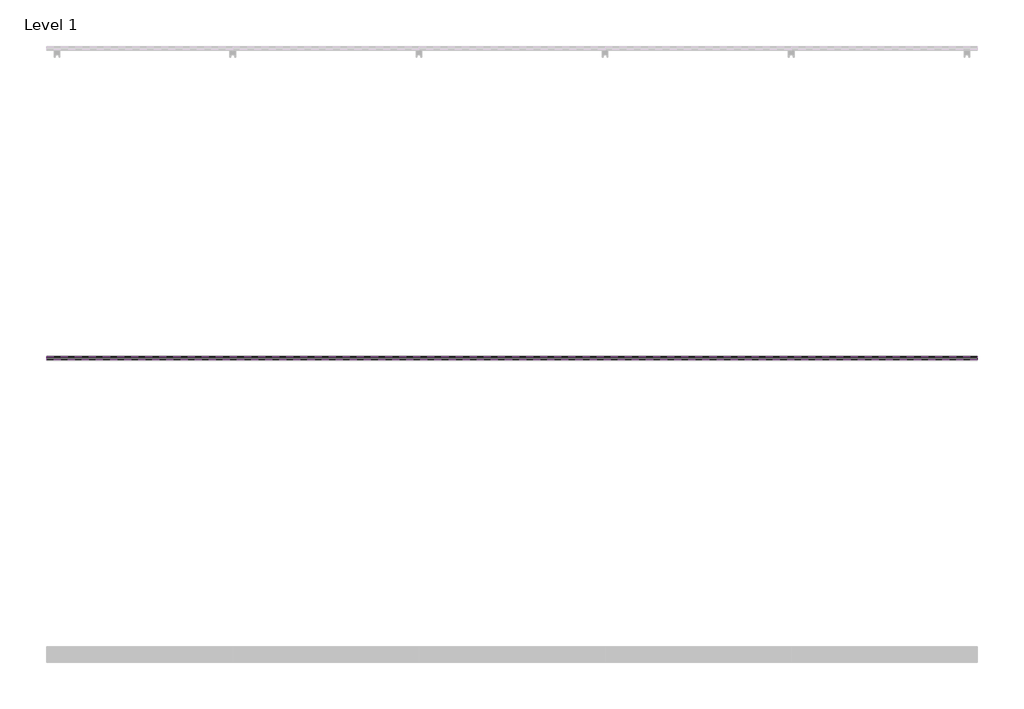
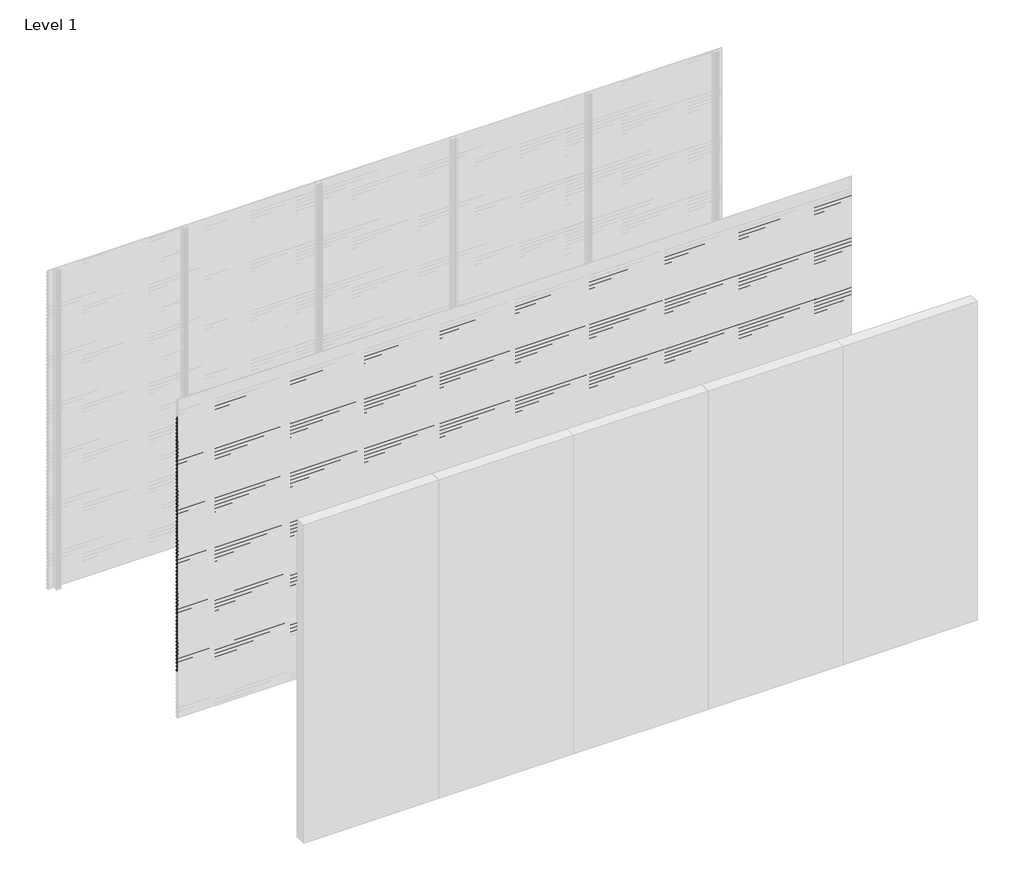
# One storey, part 56 of 77: 72 proxies.
"""IFC4 building model written with IfcOpenShell, lengths in millimetres."""

from ifc_helpers import new_model, si_unit, frame, origin, place, context, project, spatial, polyline, outline, extrude, element, save

model = new_model("IFC4")

# Units and contexts
model_context = context("Model", 3, world=origin())
ifc_project = project(units=[si_unit("LENGTHUNIT", "METRE", prefix="MILLI")], contexts=[model_context])

# Site, building, storey
site = spatial("IfcSite", under=ifc_project)
building = spatial("IfcBuilding", under=site)
storey = spatial("IfcBuildingStorey", under=building, Name="Level 1", Elevation=0.0)

# Proxies
placement = place(None, origin())
element("IfcBuildingElementProxy", 1, Name="Wall Sweeps", at=placement, inside=storey, context=model_context, shape_type="SweptSolid", body=[
    extrude(outline(polyline([(-13978.6, 2806.0359887), (-13998.0, 2817.2366691), (-13998.0, 2830.5), (-13997.0, 2830.5), (-13997.0, 2817.8191057), (-13977.6, 2806.6185105), (-13977.6, 2793.0185105), (-13978.6, 2794.5953129), (-13978.6, 2800.4032062), (-13995.9773817, 2792.3), (-13996.4, 2793.2063078), (-13978.6, 2801.5065841), (-13978.6, 2806.0359887)])), frame((0.0, 0.0, 0.0), z_axis=(1.0, 0.0, 0.0), x_axis=(0.0, 1.0, 0.0)), (0.0, 0.0, 1.0), 6000.0),
])
element("IfcBuildingElementProxy", 2, Name="Wall Sweeps", at=placement, inside=storey, context=model_context, shape_type="SweptSolid", body=[
    extrude(outline(polyline([(-13978.6, 2772.7359887), (-13998.0, 2783.9366691), (-13998.0, 2797.2), (-13997.0, 2797.2), (-13997.0, 2784.5191057), (-13977.6, 2773.3185105), (-13977.6, 2759.7185105), (-13978.6, 2761.2953129), (-13978.6, 2767.1032062), (-13995.9773817, 2759.0), (-13996.4, 2759.9063078), (-13978.6, 2768.2065841), (-13978.6, 2772.7359887)])), frame((0.0, 0.0, 0.0), z_axis=(1.0, 0.0, 0.0), x_axis=(0.0, 1.0, 0.0)), (0.0, 0.0, 1.0), 6000.0),
])
element("IfcBuildingElementProxy", 3, Name="Wall Sweeps", at=placement, inside=storey, context=model_context, shape_type="SweptSolid", body=[
    extrude(outline(polyline([(-13978.6, 2739.4359887), (-13998.0, 2750.6366691), (-13998.0, 2763.9), (-13997.0, 2763.9), (-13997.0, 2751.2191057), (-13977.6, 2740.0185105), (-13977.6, 2726.4185105), (-13978.6, 2727.9953129), (-13978.6, 2733.8032062), (-13995.9773817, 2725.7), (-13996.4, 2726.6063078), (-13978.6, 2734.9065841), (-13978.6, 2739.4359887)])), frame((0.0, 0.0, 0.0), z_axis=(1.0, 0.0, 0.0), x_axis=(0.0, 1.0, 0.0)), (0.0, 0.0, 1.0), 6000.0),
])
element("IfcBuildingElementProxy", 4, Name="Wall Sweeps", at=placement, inside=storey, context=model_context, shape_type="SweptSolid", body=[
    extrude(outline(polyline([(-13978.6, 2706.1359887), (-13998.0, 2717.3366691), (-13998.0, 2730.6), (-13997.0, 2730.6), (-13997.0, 2717.9191057), (-13977.6, 2706.7185105), (-13977.6, 2693.1185105), (-13978.6, 2694.6953129), (-13978.6, 2700.5032062), (-13995.9773817, 2692.4), (-13996.4, 2693.3063078), (-13978.6, 2701.6065841), (-13978.6, 2706.1359887)])), frame((0.0, 0.0, 0.0), z_axis=(1.0, 0.0, 0.0), x_axis=(0.0, 1.0, 0.0)), (0.0, 0.0, 1.0), 6000.0),
])
element("IfcBuildingElementProxy", 5, Name="Wall Sweeps", at=placement, inside=storey, context=model_context, shape_type="SweptSolid", body=[
    extrude(outline(polyline([(-13978.6, 2672.8359887), (-13998.0, 2684.0366691), (-13998.0, 2697.3), (-13997.0, 2697.3), (-13997.0, 2684.6191057), (-13977.6, 2673.4185105), (-13977.6, 2659.8185105), (-13978.6, 2661.3953129), (-13978.6, 2667.2032062), (-13995.9773817, 2659.1), (-13996.4, 2660.0063078), (-13978.6, 2668.3065841), (-13978.6, 2672.8359887)])), frame((0.0, 0.0, 0.0), z_axis=(1.0, 0.0, 0.0), x_axis=(0.0, 1.0, 0.0)), (0.0, 0.0, 1.0), 6000.0),
])
element("IfcBuildingElementProxy", 6, Name="Wall Sweeps", at=placement, inside=storey, context=model_context, shape_type="SweptSolid", body=[
    extrude(outline(polyline([(-13978.6, 2639.5359887), (-13998.0, 2650.7366691), (-13998.0, 2664.0), (-13997.0, 2664.0), (-13997.0, 2651.3191057), (-13977.6, 2640.1185105), (-13977.6, 2626.5185105), (-13978.6, 2628.0953129), (-13978.6, 2633.9032062), (-13995.9773817, 2625.8), (-13996.4, 2626.7063078), (-13978.6, 2635.0065841), (-13978.6, 2639.5359887)])), frame((0.0, 0.0, 0.0), z_axis=(1.0, 0.0, 0.0), x_axis=(0.0, 1.0, 0.0)), (0.0, 0.0, 1.0), 6000.0),
])
element("IfcBuildingElementProxy", 7, Name="Wall Sweeps", at=placement, inside=storey, context=model_context, shape_type="SweptSolid", body=[
    extrude(outline(polyline([(-13978.6, 2606.2359887), (-13998.0, 2617.4366691), (-13998.0, 2630.7), (-13997.0, 2630.7), (-13997.0, 2618.0191057), (-13977.6, 2606.8185105), (-13977.6, 2593.2185105), (-13978.6, 2594.7953129), (-13978.6, 2600.6032062), (-13995.9773817, 2592.5), (-13996.4, 2593.4063078), (-13978.6, 2601.7065841), (-13978.6, 2606.2359887)])), frame((0.0, 0.0, 0.0), z_axis=(1.0, 0.0, 0.0), x_axis=(0.0, 1.0, 0.0)), (0.0, 0.0, 1.0), 6000.0),
])
element("IfcBuildingElementProxy", 8, Name="Wall Sweeps", at=placement, inside=storey, context=model_context, shape_type="SweptSolid", body=[
    extrude(outline(polyline([(-13978.6, 2572.9359887), (-13998.0, 2584.1366691), (-13998.0, 2597.4), (-13997.0, 2597.4), (-13997.0, 2584.7191057), (-13977.6, 2573.5185105), (-13977.6, 2559.9185105), (-13978.6, 2561.4953129), (-13978.6, 2567.3032062), (-13995.9773817, 2559.2), (-13996.4, 2560.1063078), (-13978.6, 2568.4065841), (-13978.6, 2572.9359887)])), frame((0.0, 0.0, 0.0), z_axis=(1.0, 0.0, 0.0), x_axis=(0.0, 1.0, 0.0)), (0.0, 0.0, 1.0), 6000.0),
])
element("IfcBuildingElementProxy", 9, Name="Wall Sweeps", at=placement, inside=storey, context=model_context, shape_type="SweptSolid", body=[
    extrude(outline(polyline([(-13978.6, 2539.6359887), (-13998.0, 2550.8366691), (-13998.0, 2564.1), (-13997.0, 2564.1), (-13997.0, 2551.4191057), (-13977.6, 2540.2185105), (-13977.6, 2526.6185105), (-13978.6, 2528.1953129), (-13978.6, 2534.0032062), (-13995.9773817, 2525.9), (-13996.4, 2526.8063078), (-13978.6, 2535.1065841), (-13978.6, 2539.6359887)])), frame((0.0, 0.0, 0.0), z_axis=(1.0, 0.0, 0.0), x_axis=(0.0, 1.0, 0.0)), (0.0, 0.0, 1.0), 6000.0),
])
element("IfcBuildingElementProxy", 10, Name="Wall Sweeps", at=placement, inside=storey, context=model_context, shape_type="SweptSolid", body=[
    extrude(outline(polyline([(-13978.6, 2506.3359887), (-13998.0, 2517.5366691), (-13998.0, 2530.8), (-13997.0, 2530.8), (-13997.0, 2518.1191057), (-13977.6, 2506.9185105), (-13977.6, 2493.3185105), (-13978.6, 2494.8953129), (-13978.6, 2500.7032062), (-13995.9773817, 2492.6), (-13996.4, 2493.5063078), (-13978.6, 2501.8065841), (-13978.6, 2506.3359887)])), frame((0.0, 0.0, 0.0), z_axis=(1.0, 0.0, 0.0), x_axis=(0.0, 1.0, 0.0)), (0.0, 0.0, 1.0), 6000.0),
])
element("IfcBuildingElementProxy", 11, Name="Wall Sweeps", at=placement, inside=storey, context=model_context, shape_type="SweptSolid", body=[
    extrude(outline(polyline([(-13978.6, 2473.0359887), (-13998.0, 2484.2366691), (-13998.0, 2497.5), (-13997.0, 2497.5), (-13997.0, 2484.8191057), (-13977.6, 2473.6185105), (-13977.6, 2460.0185105), (-13978.6, 2461.5953129), (-13978.6, 2467.4032062), (-13995.9773817, 2459.3), (-13996.4, 2460.2063078), (-13978.6, 2468.5065841), (-13978.6, 2473.0359887)])), frame((0.0, 0.0, 0.0), z_axis=(1.0, 0.0, 0.0), x_axis=(0.0, 1.0, 0.0)), (0.0, 0.0, 1.0), 6000.0),
])
element("IfcBuildingElementProxy", 12, Name="Wall Sweeps", at=placement, inside=storey, context=model_context, shape_type="SweptSolid", body=[
    extrude(outline(polyline([(-13978.6, 2439.7359887), (-13998.0, 2450.9366691), (-13998.0, 2464.2), (-13997.0, 2464.2), (-13997.0, 2451.5191057), (-13977.6, 2440.3185105), (-13977.6, 2426.7185105), (-13978.6, 2428.2953129), (-13978.6, 2434.1032062), (-13995.9773817, 2426.0), (-13996.4, 2426.9063078), (-13978.6, 2435.2065841), (-13978.6, 2439.7359887)])), frame((0.0, 0.0, 0.0), z_axis=(1.0, 0.0, 0.0), x_axis=(0.0, 1.0, 0.0)), (0.0, 0.0, 1.0), 6000.0),
])
element("IfcBuildingElementProxy", 13, Name="Wall Sweeps", at=placement, inside=storey, context=model_context, shape_type="SweptSolid", body=[
    extrude(outline(polyline([(-13978.6, 2406.4359887), (-13998.0, 2417.6366691), (-13998.0, 2430.9), (-13997.0, 2430.9), (-13997.0, 2418.2191057), (-13977.6, 2407.0185105), (-13977.6, 2393.4185105), (-13978.6, 2394.9953129), (-13978.6, 2400.8032062), (-13995.9773817, 2392.7), (-13996.4, 2393.6063078), (-13978.6, 2401.9065841), (-13978.6, 2406.4359887)])), frame((0.0, 0.0, 0.0), z_axis=(1.0, 0.0, 0.0), x_axis=(0.0, 1.0, 0.0)), (0.0, 0.0, 1.0), 6000.0),
])
element("IfcBuildingElementProxy", 14, Name="Wall Sweeps", at=placement, inside=storey, context=model_context, shape_type="SweptSolid", body=[
    extrude(outline(polyline([(-13978.6, 2373.1359887), (-13998.0, 2384.3366691), (-13998.0, 2397.6), (-13997.0, 2397.6), (-13997.0, 2384.9191057), (-13977.6, 2373.7185105), (-13977.6, 2360.1185105), (-13978.6, 2361.6953129), (-13978.6, 2367.5032062), (-13995.9773817, 2359.4), (-13996.4, 2360.3063078), (-13978.6, 2368.6065841), (-13978.6, 2373.1359887)])), frame((0.0, 0.0, 0.0), z_axis=(1.0, 0.0, 0.0), x_axis=(0.0, 1.0, 0.0)), (0.0, 0.0, 1.0), 6000.0),
])
element("IfcBuildingElementProxy", 15, Name="Wall Sweeps", at=placement, inside=storey, context=model_context, shape_type="SweptSolid", body=[
    extrude(outline(polyline([(-13978.6, 2339.8359887), (-13998.0, 2351.0366691), (-13998.0, 2364.3), (-13997.0, 2364.3), (-13997.0, 2351.6191057), (-13977.6, 2340.4185105), (-13977.6, 2326.8185105), (-13978.6, 2328.3953129), (-13978.6, 2334.2032062), (-13995.9773817, 2326.1), (-13996.4, 2327.0063078), (-13978.6, 2335.3065841), (-13978.6, 2339.8359887)])), frame((0.0, 0.0, 0.0), z_axis=(1.0, 0.0, 0.0), x_axis=(0.0, 1.0, 0.0)), (0.0, 0.0, 1.0), 6000.0),
])
element("IfcBuildingElementProxy", 16, Name="Wall Sweeps", at=placement, inside=storey, context=model_context, shape_type="SweptSolid", body=[
    extrude(outline(polyline([(-13978.6, 2306.5359887), (-13998.0, 2317.7366691), (-13998.0, 2331.0), (-13997.0, 2331.0), (-13997.0, 2318.3191057), (-13977.6, 2307.1185105), (-13977.6, 2293.5185105), (-13978.6, 2295.0953129), (-13978.6, 2300.9032062), (-13995.9773817, 2292.8), (-13996.4, 2293.7063078), (-13978.6, 2302.0065841), (-13978.6, 2306.5359887)])), frame((0.0, 0.0, 0.0), z_axis=(1.0, 0.0, 0.0), x_axis=(0.0, 1.0, 0.0)), (0.0, 0.0, 1.0), 6000.0),
])
element("IfcBuildingElementProxy", 17, Name="Wall Sweeps", at=placement, inside=storey, context=model_context, shape_type="SweptSolid", body=[
    extrude(outline(polyline([(-13978.6, 2273.2359887), (-13998.0, 2284.4366691), (-13998.0, 2297.7), (-13997.0, 2297.7), (-13997.0, 2285.0191057), (-13977.6, 2273.8185105), (-13977.6, 2260.2185105), (-13978.6, 2261.7953129), (-13978.6, 2267.6032062), (-13995.9773817, 2259.5), (-13996.4, 2260.4063078), (-13978.6, 2268.7065841), (-13978.6, 2273.2359887)])), frame((0.0, 0.0, 0.0), z_axis=(1.0, 0.0, 0.0), x_axis=(0.0, 1.0, 0.0)), (0.0, 0.0, 1.0), 6000.0),
])
element("IfcBuildingElementProxy", 18, Name="Wall Sweeps", at=placement, inside=storey, context=model_context, shape_type="SweptSolid", body=[
    extrude(outline(polyline([(-13978.6, 2239.9359887), (-13998.0, 2251.1366691), (-13998.0, 2264.4), (-13997.0, 2264.4), (-13997.0, 2251.7191057), (-13977.6, 2240.5185105), (-13977.6, 2226.9185105), (-13978.6, 2228.4953129), (-13978.6, 2234.3032062), (-13995.9773817, 2226.2), (-13996.4, 2227.1063078), (-13978.6, 2235.4065841), (-13978.6, 2239.9359887)])), frame((0.0, 0.0, 0.0), z_axis=(1.0, 0.0, 0.0), x_axis=(0.0, 1.0, 0.0)), (0.0, 0.0, 1.0), 6000.0),
])
element("IfcBuildingElementProxy", 19, Name="Wall Sweeps", at=placement, inside=storey, context=model_context, shape_type="SweptSolid", body=[
    extrude(outline(polyline([(-13978.6, 2206.6359887), (-13998.0, 2217.8366691), (-13998.0, 2231.1), (-13997.0, 2231.1), (-13997.0, 2218.4191057), (-13977.6, 2207.2185105), (-13977.6, 2193.6185105), (-13978.6, 2195.1953129), (-13978.6, 2201.0032062), (-13995.9773817, 2192.9), (-13996.4, 2193.8063078), (-13978.6, 2202.1065841), (-13978.6, 2206.6359887)])), frame((0.0, 0.0, 0.0), z_axis=(1.0, 0.0, 0.0), x_axis=(0.0, 1.0, 0.0)), (0.0, 0.0, 1.0), 6000.0),
])
element("IfcBuildingElementProxy", 20, Name="Wall Sweeps", at=placement, inside=storey, context=model_context, shape_type="SweptSolid", body=[
    extrude(outline(polyline([(-13978.6, 2173.3359887), (-13998.0, 2184.5366691), (-13998.0, 2197.8), (-13997.0, 2197.8), (-13997.0, 2185.1191057), (-13977.6, 2173.9185105), (-13977.6, 2160.3185105), (-13978.6, 2161.8953129), (-13978.6, 2167.7032062), (-13995.9773817, 2159.6), (-13996.4, 2160.5063078), (-13978.6, 2168.8065841), (-13978.6, 2173.3359887)])), frame((0.0, 0.0, 0.0), z_axis=(1.0, 0.0, 0.0), x_axis=(0.0, 1.0, 0.0)), (0.0, 0.0, 1.0), 6000.0),
])
element("IfcBuildingElementProxy", 21, Name="Wall Sweeps", at=placement, inside=storey, context=model_context, shape_type="SweptSolid", body=[
    extrude(outline(polyline([(-13978.6, 2140.0359887), (-13998.0, 2151.2366691), (-13998.0, 2164.5), (-13997.0, 2164.5), (-13997.0, 2151.8191057), (-13977.6, 2140.6185105), (-13977.6, 2127.0185105), (-13978.6, 2128.5953129), (-13978.6, 2134.4032062), (-13995.9773817, 2126.3), (-13996.4, 2127.2063078), (-13978.6, 2135.5065841), (-13978.6, 2140.0359887)])), frame((0.0, 0.0, 0.0), z_axis=(1.0, 0.0, 0.0), x_axis=(0.0, 1.0, 0.0)), (0.0, 0.0, 1.0), 6000.0),
])
element("IfcBuildingElementProxy", 22, Name="Wall Sweeps", at=placement, inside=storey, context=model_context, shape_type="SweptSolid", body=[
    extrude(outline(polyline([(-13978.6, 2106.7359887), (-13998.0, 2117.9366691), (-13998.0, 2131.2), (-13997.0, 2131.2), (-13997.0, 2118.5191057), (-13977.6, 2107.3185105), (-13977.6, 2093.7185105), (-13978.6, 2095.2953129), (-13978.6, 2101.1032062), (-13995.9773817, 2093.0), (-13996.4, 2093.9063078), (-13978.6, 2102.2065841), (-13978.6, 2106.7359887)])), frame((0.0, 0.0, 0.0), z_axis=(1.0, 0.0, 0.0), x_axis=(0.0, 1.0, 0.0)), (0.0, 0.0, 1.0), 6000.0),
])
element("IfcBuildingElementProxy", 23, Name="Wall Sweeps", at=placement, inside=storey, context=model_context, shape_type="SweptSolid", body=[
    extrude(outline(polyline([(-13978.6, 2073.4359887), (-13998.0, 2084.6366691), (-13998.0, 2097.9), (-13997.0, 2097.9), (-13997.0, 2085.2191057), (-13977.6, 2074.0185105), (-13977.6, 2060.4185105), (-13978.6, 2061.9953129), (-13978.6, 2067.8032062), (-13995.9773817, 2059.7), (-13996.4, 2060.6063078), (-13978.6, 2068.9065841), (-13978.6, 2073.4359887)])), frame((0.0, 0.0, 0.0), z_axis=(1.0, 0.0, 0.0), x_axis=(0.0, 1.0, 0.0)), (0.0, 0.0, 1.0), 6000.0),
])
element("IfcBuildingElementProxy", 24, Name="Wall Sweeps", at=placement, inside=storey, context=model_context, shape_type="SweptSolid", body=[
    extrude(outline(polyline([(-13978.6, 2040.1359887), (-13998.0, 2051.3366691), (-13998.0, 2064.6), (-13997.0, 2064.6), (-13997.0, 2051.9191057), (-13977.6, 2040.7185105), (-13977.6, 2027.1185105), (-13978.6, 2028.6953129), (-13978.6, 2034.5032062), (-13995.9773817, 2026.4), (-13996.4, 2027.3063078), (-13978.6, 2035.6065841), (-13978.6, 2040.1359887)])), frame((0.0, 0.0, 0.0), z_axis=(1.0, 0.0, 0.0), x_axis=(0.0, 1.0, 0.0)), (0.0, 0.0, 1.0), 6000.0),
])
element("IfcBuildingElementProxy", 25, Name="Wall Sweeps", at=placement, inside=storey, context=model_context, shape_type="SweptSolid", body=[
    extrude(outline(polyline([(-13978.6, 2006.8359887), (-13998.0, 2018.0366691), (-13998.0, 2031.3), (-13997.0, 2031.3), (-13997.0, 2018.6191057), (-13977.6, 2007.4185105), (-13977.6, 1993.8185105), (-13978.6, 1995.3953129), (-13978.6, 2001.2032062), (-13995.9773817, 1993.1), (-13996.4, 1994.0063078), (-13978.6, 2002.3065841), (-13978.6, 2006.8359887)])), frame((0.0, 0.0, 0.0), z_axis=(1.0, 0.0, 0.0), x_axis=(0.0, 1.0, 0.0)), (0.0, 0.0, 1.0), 6000.0),
])
element("IfcBuildingElementProxy", 26, Name="Wall Sweeps", at=placement, inside=storey, context=model_context, shape_type="SweptSolid", body=[
    extrude(outline(polyline([(-13978.6, 1973.5359887), (-13998.0, 1984.7366691), (-13998.0, 1998.0), (-13997.0, 1998.0), (-13997.0, 1985.3191057), (-13977.6, 1974.1185105), (-13977.6, 1960.5185105), (-13978.6, 1962.0953129), (-13978.6, 1967.9032062), (-13995.9773817, 1959.8), (-13996.4, 1960.7063078), (-13978.6, 1969.0065841), (-13978.6, 1973.5359887)])), frame((0.0, 0.0, 0.0), z_axis=(1.0, 0.0, 0.0), x_axis=(0.0, 1.0, 0.0)), (0.0, 0.0, 1.0), 6000.0),
])
element("IfcBuildingElementProxy", 27, Name="Wall Sweeps", at=placement, inside=storey, context=model_context, shape_type="SweptSolid", body=[
    extrude(outline(polyline([(-13978.6, 1940.2359887), (-13998.0, 1951.4366691), (-13998.0, 1964.7), (-13997.0, 1964.7), (-13997.0, 1952.0191057), (-13977.6, 1940.8185105), (-13977.6, 1927.2185105), (-13978.6, 1928.7953129), (-13978.6, 1934.6032062), (-13995.9773817, 1926.5), (-13996.4, 1927.4063078), (-13978.6, 1935.7065841), (-13978.6, 1940.2359887)])), frame((0.0, 0.0, 0.0), z_axis=(1.0, 0.0, 0.0), x_axis=(0.0, 1.0, 0.0)), (0.0, 0.0, 1.0), 6000.0),
])
element("IfcBuildingElementProxy", 28, Name="Wall Sweeps", at=placement, inside=storey, context=model_context, shape_type="SweptSolid", body=[
    extrude(outline(polyline([(-13978.6, 1906.9359887), (-13998.0, 1918.1366691), (-13998.0, 1931.4), (-13997.0, 1931.4), (-13997.0, 1918.7191057), (-13977.6, 1907.5185105), (-13977.6, 1893.9185105), (-13978.6, 1895.4953129), (-13978.6, 1901.3032062), (-13995.9773817, 1893.2), (-13996.4, 1894.1063078), (-13978.6, 1902.4065841), (-13978.6, 1906.9359887)])), frame((0.0, 0.0, 0.0), z_axis=(1.0, 0.0, 0.0), x_axis=(0.0, 1.0, 0.0)), (0.0, 0.0, 1.0), 6000.0),
])
element("IfcBuildingElementProxy", 29, Name="Wall Sweeps", at=placement, inside=storey, context=model_context, shape_type="SweptSolid", body=[
    extrude(outline(polyline([(-13978.6, 1873.6359887), (-13998.0, 1884.8366691), (-13998.0, 1898.1), (-13997.0, 1898.1), (-13997.0, 1885.4191057), (-13977.6, 1874.2185105), (-13977.6, 1860.6185105), (-13978.6, 1862.1953129), (-13978.6, 1868.0032062), (-13995.9773817, 1859.9), (-13996.4, 1860.8063078), (-13978.6, 1869.1065841), (-13978.6, 1873.6359887)])), frame((0.0, 0.0, 0.0), z_axis=(1.0, 0.0, 0.0), x_axis=(0.0, 1.0, 0.0)), (0.0, 0.0, 1.0), 6000.0),
])
element("IfcBuildingElementProxy", 30, Name="Wall Sweeps", at=placement, inside=storey, context=model_context, shape_type="SweptSolid", body=[
    extrude(outline(polyline([(-13978.6, 1840.3359887), (-13998.0, 1851.5366691), (-13998.0, 1864.8), (-13997.0, 1864.8), (-13997.0, 1852.1191057), (-13977.6, 1840.9185105), (-13977.6, 1827.3185105), (-13978.6, 1828.8953129), (-13978.6, 1834.7032062), (-13995.9773817, 1826.6), (-13996.4, 1827.5063078), (-13978.6, 1835.8065841), (-13978.6, 1840.3359887)])), frame((0.0, 0.0, 0.0), z_axis=(1.0, 0.0, 0.0), x_axis=(0.0, 1.0, 0.0)), (0.0, 0.0, 1.0), 6000.0),
])
element("IfcBuildingElementProxy", 31, Name="Wall Sweeps", at=placement, inside=storey, context=model_context, shape_type="SweptSolid", body=[
    extrude(outline(polyline([(-13978.6, 1807.0359887), (-13998.0, 1818.2366691), (-13998.0, 1831.5), (-13997.0, 1831.5), (-13997.0, 1818.8191057), (-13977.6, 1807.6185105), (-13977.6, 1794.0185105), (-13978.6, 1795.5953129), (-13978.6, 1801.4032062), (-13995.9773817, 1793.3), (-13996.4, 1794.2063078), (-13978.6, 1802.5065841), (-13978.6, 1807.0359887)])), frame((0.0, 0.0, 0.0), z_axis=(1.0, 0.0, 0.0), x_axis=(0.0, 1.0, 0.0)), (0.0, 0.0, 1.0), 6000.0),
])
element("IfcBuildingElementProxy", 32, Name="Wall Sweeps", at=placement, inside=storey, context=model_context, shape_type="SweptSolid", body=[
    extrude(outline(polyline([(-13978.6, 1773.7359887), (-13998.0, 1784.9366691), (-13998.0, 1798.2), (-13997.0, 1798.2), (-13997.0, 1785.5191057), (-13977.6, 1774.3185105), (-13977.6, 1760.7185105), (-13978.6, 1762.2953129), (-13978.6, 1768.1032062), (-13995.9773817, 1760.0), (-13996.4, 1760.9063078), (-13978.6, 1769.2065841), (-13978.6, 1773.7359887)])), frame((0.0, 0.0, 0.0), z_axis=(1.0, 0.0, 0.0), x_axis=(0.0, 1.0, 0.0)), (0.0, 0.0, 1.0), 6000.0),
])
element("IfcBuildingElementProxy", 33, Name="Wall Sweeps", at=placement, inside=storey, context=model_context, shape_type="SweptSolid", body=[
    extrude(outline(polyline([(-13978.6, 1740.4359887), (-13998.0, 1751.6366691), (-13998.0, 1764.9), (-13997.0, 1764.9), (-13997.0, 1752.2191057), (-13977.6, 1741.0185105), (-13977.6, 1727.4185105), (-13978.6, 1728.9953129), (-13978.6, 1734.8032062), (-13995.9773817, 1726.7), (-13996.4, 1727.6063078), (-13978.6, 1735.9065841), (-13978.6, 1740.4359887)])), frame((0.0, 0.0, 0.0), z_axis=(1.0, 0.0, 0.0), x_axis=(0.0, 1.0, 0.0)), (0.0, 0.0, 1.0), 6000.0),
])
element("IfcBuildingElementProxy", 34, Name="Wall Sweeps", at=placement, inside=storey, context=model_context, shape_type="SweptSolid", body=[
    extrude(outline(polyline([(-13978.6, 1707.1359887), (-13998.0, 1718.3366691), (-13998.0, 1731.6), (-13997.0, 1731.6), (-13997.0, 1718.9191057), (-13977.6, 1707.7185105), (-13977.6, 1694.1185105), (-13978.6, 1695.6953129), (-13978.6, 1701.5032062), (-13995.9773817, 1693.4), (-13996.4, 1694.3063078), (-13978.6, 1702.6065841), (-13978.6, 1707.1359887)])), frame((0.0, 0.0, 0.0), z_axis=(1.0, 0.0, 0.0), x_axis=(0.0, 1.0, 0.0)), (0.0, 0.0, 1.0), 6000.0),
])
element("IfcBuildingElementProxy", 35, Name="Wall Sweeps", at=placement, inside=storey, context=model_context, shape_type="SweptSolid", body=[
    extrude(outline(polyline([(-13978.6, 1673.8359887), (-13998.0, 1685.0366691), (-13998.0, 1698.3), (-13997.0, 1698.3), (-13997.0, 1685.6191057), (-13977.6, 1674.4185105), (-13977.6, 1660.8185105), (-13978.6, 1662.3953129), (-13978.6, 1668.2032062), (-13995.9773817, 1660.1), (-13996.4, 1661.0063078), (-13978.6, 1669.3065841), (-13978.6, 1673.8359887)])), frame((0.0, 0.0, 0.0), z_axis=(1.0, 0.0, 0.0), x_axis=(0.0, 1.0, 0.0)), (0.0, 0.0, 1.0), 6000.0),
])
element("IfcBuildingElementProxy", 36, Name="Wall Sweeps", at=placement, inside=storey, context=model_context, shape_type="SweptSolid", body=[
    extrude(outline(polyline([(-13978.6, 1640.5359887), (-13998.0, 1651.7366691), (-13998.0, 1665.0), (-13997.0, 1665.0), (-13997.0, 1652.3191057), (-13977.6, 1641.1185105), (-13977.6, 1627.5185105), (-13978.6, 1629.0953129), (-13978.6, 1634.9032062), (-13995.9773817, 1626.8), (-13996.4, 1627.7063078), (-13978.6, 1636.0065841), (-13978.6, 1640.5359887)])), frame((0.0, 0.0, 0.0), z_axis=(1.0, 0.0, 0.0), x_axis=(0.0, 1.0, 0.0)), (0.0, 0.0, 1.0), 6000.0),
])
element("IfcBuildingElementProxy", 37, Name="Wall Sweeps", at=placement, inside=storey, context=model_context, shape_type="SweptSolid", body=[
    extrude(outline(polyline([(-13978.6, 1607.2359887), (-13998.0, 1618.4366691), (-13998.0, 1631.7), (-13997.0, 1631.7), (-13997.0, 1619.0191057), (-13977.6, 1607.8185105), (-13977.6, 1594.2185105), (-13978.6, 1595.7953129), (-13978.6, 1601.6032062), (-13995.9773817, 1593.5), (-13996.4, 1594.4063078), (-13978.6, 1602.7065841), (-13978.6, 1607.2359887)])), frame((0.0, 0.0, 0.0), z_axis=(1.0, 0.0, 0.0), x_axis=(0.0, 1.0, 0.0)), (0.0, 0.0, 1.0), 6000.0),
])
element("IfcBuildingElementProxy", 38, Name="Wall Sweeps", at=placement, inside=storey, context=model_context, shape_type="SweptSolid", body=[
    extrude(outline(polyline([(-13978.6, 1573.9359887), (-13998.0, 1585.1366691), (-13998.0, 1598.4), (-13997.0, 1598.4), (-13997.0, 1585.7191057), (-13977.6, 1574.5185105), (-13977.6, 1560.9185105), (-13978.6, 1562.4953129), (-13978.6, 1568.3032062), (-13995.9773817, 1560.2), (-13996.4, 1561.1063078), (-13978.6, 1569.4065841), (-13978.6, 1573.9359887)])), frame((0.0, 0.0, 0.0), z_axis=(1.0, 0.0, 0.0), x_axis=(0.0, 1.0, 0.0)), (0.0, 0.0, 1.0), 6000.0),
])
element("IfcBuildingElementProxy", 39, Name="Wall Sweeps", at=placement, inside=storey, context=model_context, shape_type="SweptSolid", body=[
    extrude(outline(polyline([(-13978.6, 1540.6359887), (-13998.0, 1551.8366691), (-13998.0, 1565.1), (-13997.0, 1565.1), (-13997.0, 1552.4191057), (-13977.6, 1541.2185105), (-13977.6, 1527.6185105), (-13978.6, 1529.1953129), (-13978.6, 1535.0032062), (-13995.9773817, 1526.9), (-13996.4, 1527.8063078), (-13978.6, 1536.1065841), (-13978.6, 1540.6359887)])), frame((0.0, 0.0, 0.0), z_axis=(1.0, 0.0, 0.0), x_axis=(0.0, 1.0, 0.0)), (0.0, 0.0, 1.0), 6000.0),
])
element("IfcBuildingElementProxy", 40, Name="Wall Sweeps", at=placement, inside=storey, context=model_context, shape_type="SweptSolid", body=[
    extrude(outline(polyline([(-13978.6, 1507.3359887), (-13998.0, 1518.5366691), (-13998.0, 1531.8), (-13997.0, 1531.8), (-13997.0, 1519.1191057), (-13977.6, 1507.9185105), (-13977.6, 1494.3185105), (-13978.6, 1495.8953129), (-13978.6, 1501.7032062), (-13995.9773817, 1493.6), (-13996.4, 1494.5063078), (-13978.6, 1502.8065841), (-13978.6, 1507.3359887)])), frame((0.0, 0.0, 0.0), z_axis=(1.0, 0.0, 0.0), x_axis=(0.0, 1.0, 0.0)), (0.0, 0.0, 1.0), 6000.0),
])
element("IfcBuildingElementProxy", 41, Name="Wall Sweeps", at=placement, inside=storey, context=model_context, shape_type="SweptSolid", body=[
    extrude(outline(polyline([(-13978.6, 1474.0359887), (-13998.0, 1485.2366691), (-13998.0, 1498.5), (-13997.0, 1498.5), (-13997.0, 1485.8191057), (-13977.6, 1474.6185105), (-13977.6, 1461.0185105), (-13978.6, 1462.5953129), (-13978.6, 1468.4032062), (-13995.9773817, 1460.3), (-13996.4, 1461.2063078), (-13978.6, 1469.5065841), (-13978.6, 1474.0359887)])), frame((0.0, 0.0, 0.0), z_axis=(1.0, 0.0, 0.0), x_axis=(0.0, 1.0, 0.0)), (0.0, 0.0, 1.0), 6000.0),
])
element("IfcBuildingElementProxy", 42, Name="Wall Sweeps", at=placement, inside=storey, context=model_context, shape_type="SweptSolid", body=[
    extrude(outline(polyline([(-13978.6, 1440.7359887), (-13998.0, 1451.9366691), (-13998.0, 1465.2), (-13997.0, 1465.2), (-13997.0, 1452.5191057), (-13977.6, 1441.3185105), (-13977.6, 1427.7185105), (-13978.6, 1429.2953129), (-13978.6, 1435.1032062), (-13995.9773817, 1427.0), (-13996.4, 1427.9063078), (-13978.6, 1436.2065841), (-13978.6, 1440.7359887)])), frame((0.0, 0.0, 0.0), z_axis=(1.0, 0.0, 0.0), x_axis=(0.0, 1.0, 0.0)), (0.0, 0.0, 1.0), 6000.0),
])
element("IfcBuildingElementProxy", 43, Name="Wall Sweeps", at=placement, inside=storey, context=model_context, shape_type="SweptSolid", body=[
    extrude(outline(polyline([(-13978.6, 1407.4359887), (-13998.0, 1418.6366691), (-13998.0, 1431.9), (-13997.0, 1431.9), (-13997.0, 1419.2191057), (-13977.6, 1408.0185105), (-13977.6, 1394.4185105), (-13978.6, 1395.9953129), (-13978.6, 1401.8032062), (-13995.9773817, 1393.7), (-13996.4, 1394.6063078), (-13978.6, 1402.9065841), (-13978.6, 1407.4359887)])), frame((0.0, 0.0, 0.0), z_axis=(1.0, 0.0, 0.0), x_axis=(0.0, 1.0, 0.0)), (0.0, 0.0, 1.0), 6000.0),
])
element("IfcBuildingElementProxy", 44, Name="Wall Sweeps", at=placement, inside=storey, context=model_context, shape_type="SweptSolid", body=[
    extrude(outline(polyline([(-13978.6, 1374.1359887), (-13998.0, 1385.3366691), (-13998.0, 1398.6), (-13997.0, 1398.6), (-13997.0, 1385.9191057), (-13977.6, 1374.7185105), (-13977.6, 1361.1185105), (-13978.6, 1362.6953129), (-13978.6, 1368.5032062), (-13995.9773817, 1360.4), (-13996.4, 1361.3063078), (-13978.6, 1369.6065841), (-13978.6, 1374.1359887)])), frame((0.0, 0.0, 0.0), z_axis=(1.0, 0.0, 0.0), x_axis=(0.0, 1.0, 0.0)), (0.0, 0.0, 1.0), 6000.0),
])
element("IfcBuildingElementProxy", 45, Name="Wall Sweeps", at=placement, inside=storey, context=model_context, shape_type="SweptSolid", body=[
    extrude(outline(polyline([(-13978.6, 1340.8359887), (-13998.0, 1352.0366691), (-13998.0, 1365.3), (-13997.0, 1365.3), (-13997.0, 1352.6191057), (-13977.6, 1341.4185105), (-13977.6, 1327.8185105), (-13978.6, 1329.3953129), (-13978.6, 1335.2032062), (-13995.9773817, 1327.1), (-13996.4, 1328.0063078), (-13978.6, 1336.3065841), (-13978.6, 1340.8359887)])), frame((0.0, 0.0, 0.0), z_axis=(1.0, 0.0, 0.0), x_axis=(0.0, 1.0, 0.0)), (0.0, 0.0, 1.0), 6000.0),
])
element("IfcBuildingElementProxy", 46, Name="Wall Sweeps", at=placement, inside=storey, context=model_context, shape_type="SweptSolid", body=[
    extrude(outline(polyline([(-13978.6, 1307.5359887), (-13998.0, 1318.7366691), (-13998.0, 1332.0), (-13997.0, 1332.0), (-13997.0, 1319.3191057), (-13977.6, 1308.1185105), (-13977.6, 1294.5185105), (-13978.6, 1296.0953129), (-13978.6, 1301.9032062), (-13995.9773817, 1293.8), (-13996.4, 1294.7063078), (-13978.6, 1303.0065841), (-13978.6, 1307.5359887)])), frame((0.0, 0.0, 0.0), z_axis=(1.0, 0.0, 0.0), x_axis=(0.0, 1.0, 0.0)), (0.0, 0.0, 1.0), 6000.0),
])
element("IfcBuildingElementProxy", 47, Name="Wall Sweeps", at=placement, inside=storey, context=model_context, shape_type="SweptSolid", body=[
    extrude(outline(polyline([(-13978.6, 1274.2359887), (-13998.0, 1285.4366691), (-13998.0, 1298.7), (-13997.0, 1298.7), (-13997.0, 1286.0191057), (-13977.6, 1274.8185105), (-13977.6, 1261.2185105), (-13978.6, 1262.7953129), (-13978.6, 1268.6032062), (-13995.9773817, 1260.5), (-13996.4, 1261.4063078), (-13978.6, 1269.7065841), (-13978.6, 1274.2359887)])), frame((0.0, 0.0, 0.0), z_axis=(1.0, 0.0, 0.0), x_axis=(0.0, 1.0, 0.0)), (0.0, 0.0, 1.0), 6000.0),
])
element("IfcBuildingElementProxy", 48, Name="Wall Sweeps", at=placement, inside=storey, context=model_context, shape_type="SweptSolid", body=[
    extrude(outline(polyline([(-13978.6, 1240.9359887), (-13998.0, 1252.1366691), (-13998.0, 1265.4), (-13997.0, 1265.4), (-13997.0, 1252.7191057), (-13977.6, 1241.5185105), (-13977.6, 1227.9185105), (-13978.6, 1229.4953129), (-13978.6, 1235.3032062), (-13995.9773817, 1227.2), (-13996.4, 1228.1063078), (-13978.6, 1236.4065841), (-13978.6, 1240.9359887)])), frame((0.0, 0.0, 0.0), z_axis=(1.0, 0.0, 0.0), x_axis=(0.0, 1.0, 0.0)), (0.0, 0.0, 1.0), 6000.0),
])
element("IfcBuildingElementProxy", 49, Name="Wall Sweeps", at=placement, inside=storey, context=model_context, shape_type="SweptSolid", body=[
    extrude(outline(polyline([(-13978.6, 1207.6359887), (-13998.0, 1218.8366691), (-13998.0, 1232.1), (-13997.0, 1232.1), (-13997.0, 1219.4191057), (-13977.6, 1208.2185105), (-13977.6, 1194.6185105), (-13978.6, 1196.1953129), (-13978.6, 1202.0032062), (-13995.9773817, 1193.9), (-13996.4, 1194.8063078), (-13978.6, 1203.1065841), (-13978.6, 1207.6359887)])), frame((0.0, 0.0, 0.0), z_axis=(1.0, 0.0, 0.0), x_axis=(0.0, 1.0, 0.0)), (0.0, 0.0, 1.0), 6000.0),
])
element("IfcBuildingElementProxy", 50, Name="Wall Sweeps", at=placement, inside=storey, context=model_context, shape_type="SweptSolid", body=[
    extrude(outline(polyline([(-13978.6, 1174.3359887), (-13998.0, 1185.5366691), (-13998.0, 1198.8), (-13997.0, 1198.8), (-13997.0, 1186.1191057), (-13977.6, 1174.9185105), (-13977.6, 1161.3185105), (-13978.6, 1162.8953129), (-13978.6, 1168.7032062), (-13995.9773817, 1160.6), (-13996.4, 1161.5063078), (-13978.6, 1169.8065841), (-13978.6, 1174.3359887)])), frame((0.0, 0.0, 0.0), z_axis=(1.0, 0.0, 0.0), x_axis=(0.0, 1.0, 0.0)), (0.0, 0.0, 1.0), 6000.0),
])
element("IfcBuildingElementProxy", 51, Name="Wall Sweeps", at=placement, inside=storey, context=model_context, shape_type="SweptSolid", body=[
    extrude(outline(polyline([(-13978.6, 1141.0359887), (-13998.0, 1152.2366691), (-13998.0, 1165.5), (-13997.0, 1165.5), (-13997.0, 1152.8191057), (-13977.6, 1141.6185105), (-13977.6, 1128.0185105), (-13978.6, 1129.5953129), (-13978.6, 1135.4032062), (-13995.9773817, 1127.3), (-13996.4, 1128.2063078), (-13978.6, 1136.5065841), (-13978.6, 1141.0359887)])), frame((0.0, 0.0, 0.0), z_axis=(1.0, 0.0, 0.0), x_axis=(0.0, 1.0, 0.0)), (0.0, 0.0, 1.0), 6000.0),
])
element("IfcBuildingElementProxy", 52, Name="Wall Sweeps", at=placement, inside=storey, context=model_context, shape_type="SweptSolid", body=[
    extrude(outline(polyline([(-13978.6, 1107.7359887), (-13998.0, 1118.9366691), (-13998.0, 1132.2), (-13997.0, 1132.2), (-13997.0, 1119.5191057), (-13977.6, 1108.3185105), (-13977.6, 1094.7185105), (-13978.6, 1096.2953129), (-13978.6, 1102.1032062), (-13995.9773817, 1094.0), (-13996.4, 1094.9063078), (-13978.6, 1103.2065841), (-13978.6, 1107.7359887)])), frame((0.0, 0.0, 0.0), z_axis=(1.0, 0.0, 0.0), x_axis=(0.0, 1.0, 0.0)), (0.0, 0.0, 1.0), 6000.0),
])
element("IfcBuildingElementProxy", 53, Name="Wall Sweeps", at=placement, inside=storey, context=model_context, shape_type="SweptSolid", body=[
    extrude(outline(polyline([(-13978.6, 1074.4359887), (-13998.0, 1085.6366691), (-13998.0, 1098.9), (-13997.0, 1098.9), (-13997.0, 1086.2191057), (-13977.6, 1075.0185105), (-13977.6, 1061.4185105), (-13978.6, 1062.9953129), (-13978.6, 1068.8032062), (-13995.9773817, 1060.7), (-13996.4, 1061.6063078), (-13978.6, 1069.9065841), (-13978.6, 1074.4359887)])), frame((0.0, 0.0, 0.0), z_axis=(1.0, 0.0, 0.0), x_axis=(0.0, 1.0, 0.0)), (0.0, 0.0, 1.0), 6000.0),
])
element("IfcBuildingElementProxy", 54, Name="Wall Sweeps", at=placement, inside=storey, context=model_context, shape_type="SweptSolid", body=[
    extrude(outline(polyline([(-13978.6, 1041.1359887), (-13998.0, 1052.3366691), (-13998.0, 1065.6), (-13997.0, 1065.6), (-13997.0, 1052.9191057), (-13977.6, 1041.7185105), (-13977.6, 1028.1185105), (-13978.6, 1029.6953129), (-13978.6, 1035.5032062), (-13995.9773817, 1027.4), (-13996.4, 1028.3063078), (-13978.6, 1036.6065841), (-13978.6, 1041.1359887)])), frame((0.0, 0.0, 0.0), z_axis=(1.0, 0.0, 0.0), x_axis=(0.0, 1.0, 0.0)), (0.0, 0.0, 1.0), 6000.0),
])
element("IfcBuildingElementProxy", 55, Name="Wall Sweeps", at=placement, inside=storey, context=model_context, shape_type="SweptSolid", body=[
    extrude(outline(polyline([(-13978.6, 1007.8359887), (-13998.0, 1019.0366691), (-13998.0, 1032.3), (-13997.0, 1032.3), (-13997.0, 1019.6191057), (-13977.6, 1008.4185105), (-13977.6, 994.8185105), (-13978.6, 996.3953129), (-13978.6, 1002.2032062), (-13995.9773817, 994.1), (-13996.4, 995.0063078), (-13978.6, 1003.3065841), (-13978.6, 1007.8359887)])), frame((0.0, 0.0, 0.0), z_axis=(1.0, 0.0, 0.0), x_axis=(0.0, 1.0, 0.0)), (0.0, 0.0, 1.0), 6000.0),
])
element("IfcBuildingElementProxy", 56, Name="Wall Sweeps", at=placement, inside=storey, context=model_context, shape_type="SweptSolid", body=[
    extrude(outline(polyline([(-13978.6, 974.5359887), (-13998.0, 985.7366691), (-13998.0, 999.0), (-13997.0, 999.0), (-13997.0, 986.3191057), (-13977.6, 975.1185105), (-13977.6, 961.5185105), (-13978.6, 963.0953129), (-13978.6, 968.9032062), (-13995.9773817, 960.8), (-13996.4, 961.7063078), (-13978.6, 970.0065841), (-13978.6, 974.5359887)])), frame((0.0, 0.0, 0.0), z_axis=(1.0, 0.0, 0.0), x_axis=(0.0, 1.0, 0.0)), (0.0, 0.0, 1.0), 6000.0),
])
element("IfcBuildingElementProxy", 57, Name="Wall Sweeps", at=placement, inside=storey, context=model_context, shape_type="SweptSolid", body=[
    extrude(outline(polyline([(-13978.6, 941.2359887), (-13998.0, 952.4366691), (-13998.0, 965.7), (-13997.0, 965.7), (-13997.0, 953.0191057), (-13977.6, 941.8185105), (-13977.6, 928.2185105), (-13978.6, 929.7953129), (-13978.6, 935.6032062), (-13995.9773817, 927.5), (-13996.4, 928.4063078), (-13978.6, 936.7065841), (-13978.6, 941.2359887)])), frame((0.0, 0.0, 0.0), z_axis=(1.0, 0.0, 0.0), x_axis=(0.0, 1.0, 0.0)), (0.0, 0.0, 1.0), 6000.0),
])
element("IfcBuildingElementProxy", 58, Name="Wall Sweeps", at=placement, inside=storey, context=model_context, shape_type="SweptSolid", body=[
    extrude(outline(polyline([(-13978.6, 907.9359887), (-13998.0, 919.1366691), (-13998.0, 932.4), (-13997.0, 932.4), (-13997.0, 919.7191057), (-13977.6, 908.5185105), (-13977.6, 894.9185105), (-13978.6, 896.4953129), (-13978.6, 902.3032062), (-13995.9773817, 894.2), (-13996.4, 895.1063078), (-13978.6, 903.4065841), (-13978.6, 907.9359887)])), frame((0.0, 0.0, 0.0), z_axis=(1.0, 0.0, 0.0), x_axis=(0.0, 1.0, 0.0)), (0.0, 0.0, 1.0), 6000.0),
])
element("IfcBuildingElementProxy", 59, Name="Wall Sweeps", at=placement, inside=storey, context=model_context, shape_type="SweptSolid", body=[
    extrude(outline(polyline([(-13978.6, 874.6359887), (-13998.0, 885.8366691), (-13998.0, 899.1), (-13997.0, 899.1), (-13997.0, 886.4191057), (-13977.6, 875.2185105), (-13977.6, 861.6185105), (-13978.6, 863.1953129), (-13978.6, 869.0032062), (-13995.9773817, 860.9), (-13996.4, 861.8063078), (-13978.6, 870.1065841), (-13978.6, 874.6359887)])), frame((0.0, 0.0, 0.0), z_axis=(1.0, 0.0, 0.0), x_axis=(0.0, 1.0, 0.0)), (0.0, 0.0, 1.0), 6000.0),
])
element("IfcBuildingElementProxy", 60, Name="Wall Sweeps", at=placement, inside=storey, context=model_context, shape_type="SweptSolid", body=[
    extrude(outline(polyline([(-13978.6, 841.3359887), (-13998.0, 852.5366691), (-13998.0, 865.8), (-13997.0, 865.8), (-13997.0, 853.1191057), (-13977.6, 841.9185105), (-13977.6, 828.3185105), (-13978.6, 829.8953129), (-13978.6, 835.7032062), (-13995.9773817, 827.6), (-13996.4, 828.5063078), (-13978.6, 836.8065841), (-13978.6, 841.3359887)])), frame((0.0, 0.0, 0.0), z_axis=(1.0, 0.0, 0.0), x_axis=(0.0, 1.0, 0.0)), (0.0, 0.0, 1.0), 6000.0),
])
element("IfcBuildingElementProxy", 61, Name="Wall Sweeps", at=placement, inside=storey, context=model_context, shape_type="SweptSolid", body=[
    extrude(outline(polyline([(-13978.6, 808.0359887), (-13998.0, 819.2366691), (-13998.0, 832.5), (-13997.0, 832.5), (-13997.0, 819.8191057), (-13977.6, 808.6185105), (-13977.6, 795.0185105), (-13978.6, 796.5953129), (-13978.6, 802.4032062), (-13995.9773817, 794.3), (-13996.4, 795.2063078), (-13978.6, 803.5065841), (-13978.6, 808.0359887)])), frame((0.0, 0.0, 0.0), z_axis=(1.0, 0.0, 0.0), x_axis=(0.0, 1.0, 0.0)), (0.0, 0.0, 1.0), 6000.0),
])
element("IfcBuildingElementProxy", 62, Name="Wall Sweeps", at=placement, inside=storey, context=model_context, shape_type="SweptSolid", body=[
    extrude(outline(polyline([(-13978.6, 774.7359887), (-13998.0, 785.9366691), (-13998.0, 799.2), (-13997.0, 799.2), (-13997.0, 786.5191057), (-13977.6, 775.3185105), (-13977.6, 761.7185105), (-13978.6, 763.2953129), (-13978.6, 769.1032062), (-13995.9773817, 761.0), (-13996.4, 761.9063078), (-13978.6, 770.2065841), (-13978.6, 774.7359887)])), frame((0.0, 0.0, 0.0), z_axis=(1.0, 0.0, 0.0), x_axis=(0.0, 1.0, 0.0)), (0.0, 0.0, 1.0), 6000.0),
])
element("IfcBuildingElementProxy", 63, Name="Wall Sweeps", at=placement, inside=storey, context=model_context, shape_type="SweptSolid", body=[
    extrude(outline(polyline([(-13978.6, 741.4359887), (-13998.0, 752.6366691), (-13998.0, 765.9), (-13997.0, 765.9), (-13997.0, 753.2191057), (-13977.6, 742.0185105), (-13977.6, 728.4185105), (-13978.6, 729.9953129), (-13978.6, 735.8032062), (-13995.9773817, 727.7), (-13996.4, 728.6063078), (-13978.6, 736.9065841), (-13978.6, 741.4359887)])), frame((0.0, 0.0, 0.0), z_axis=(1.0, 0.0, 0.0), x_axis=(0.0, 1.0, 0.0)), (0.0, 0.0, 1.0), 6000.0),
])
element("IfcBuildingElementProxy", 64, Name="Wall Sweeps", at=placement, inside=storey, context=model_context, shape_type="SweptSolid", body=[
    extrude(outline(polyline([(-13978.6, 708.1359887), (-13998.0, 719.3366691), (-13998.0, 732.6), (-13997.0, 732.6), (-13997.0, 719.9191057), (-13977.6, 708.7185105), (-13977.6, 695.1185105), (-13978.6, 696.6953129), (-13978.6, 702.5032062), (-13995.9773817, 694.4), (-13996.4, 695.3063078), (-13978.6, 703.6065841), (-13978.6, 708.1359887)])), frame((0.0, 0.0, 0.0), z_axis=(1.0, 0.0, 0.0), x_axis=(0.0, 1.0, 0.0)), (0.0, 0.0, 1.0), 6000.0),
])
element("IfcBuildingElementProxy", 65, Name="Wall Sweeps", at=placement, inside=storey, context=model_context, shape_type="SweptSolid", body=[
    extrude(outline(polyline([(-13978.6, 674.8359887), (-13998.0, 686.0366691), (-13998.0, 699.3), (-13997.0, 699.3), (-13997.0, 686.6191057), (-13977.6, 675.4185105), (-13977.6, 661.8185105), (-13978.6, 663.3953129), (-13978.6, 669.2032062), (-13995.9773817, 661.1), (-13996.4, 662.0063078), (-13978.6, 670.3065841), (-13978.6, 674.8359887)])), frame((0.0, 0.0, 0.0), z_axis=(1.0, 0.0, 0.0), x_axis=(0.0, 1.0, 0.0)), (0.0, 0.0, 1.0), 6000.0),
])
element("IfcBuildingElementProxy", 66, Name="Wall Sweeps", at=placement, inside=storey, context=model_context, shape_type="SweptSolid", body=[
    extrude(outline(polyline([(-13978.6, 641.5359887), (-13998.0, 652.7366691), (-13998.0, 666.0), (-13997.0, 666.0), (-13997.0, 653.3191057), (-13977.6, 642.1185105), (-13977.6, 628.5185105), (-13978.6, 630.0953129), (-13978.6, 635.9032062), (-13995.9773817, 627.8), (-13996.4, 628.7063078), (-13978.6, 637.0065841), (-13978.6, 641.5359887)])), frame((0.0, 0.0, 0.0), z_axis=(1.0, 0.0, 0.0), x_axis=(0.0, 1.0, 0.0)), (0.0, 0.0, 1.0), 6000.0),
])
element("IfcBuildingElementProxy", 67, Name="Wall Sweeps", at=placement, inside=storey, context=model_context, shape_type="SweptSolid", body=[
    extrude(outline(polyline([(-13978.6, 608.2359887), (-13998.0, 619.4366691), (-13998.0, 632.7), (-13997.0, 632.7), (-13997.0, 620.0191057), (-13977.6, 608.8185105), (-13977.6, 595.2185105), (-13978.6, 596.7953129), (-13978.6, 602.6032062), (-13995.9773817, 594.5), (-13996.4, 595.4063078), (-13978.6, 603.7065841), (-13978.6, 608.2359887)])), frame((0.0, 0.0, 0.0), z_axis=(1.0, 0.0, 0.0), x_axis=(0.0, 1.0, 0.0)), (0.0, 0.0, 1.0), 6000.0),
])
element("IfcBuildingElementProxy", 68, Name="Wall Sweeps", at=placement, inside=storey, context=model_context, shape_type="SweptSolid", body=[
    extrude(outline(polyline([(-13978.6, 574.9359887), (-13998.0, 586.1366691), (-13998.0, 599.4), (-13997.0, 599.4), (-13997.0, 586.7191057), (-13977.6, 575.5185105), (-13977.6, 561.9185105), (-13978.6, 563.4953129), (-13978.6, 569.3032062), (-13995.9773817, 561.2), (-13996.4, 562.1063078), (-13978.6, 570.4065841), (-13978.6, 574.9359887)])), frame((0.0, 0.0, 0.0), z_axis=(1.0, 0.0, 0.0), x_axis=(0.0, 1.0, 0.0)), (0.0, 0.0, 1.0), 6000.0),
])
element("IfcBuildingElementProxy", 69, Name="Wall Sweeps", at=placement, inside=storey, context=model_context, shape_type="SweptSolid", body=[
    extrude(outline(polyline([(-13978.6, 541.6359887), (-13998.0, 552.8366691), (-13998.0, 566.1), (-13997.0, 566.1), (-13997.0, 553.4191057), (-13977.6, 542.2185105), (-13977.6, 528.6185105), (-13978.6, 530.1953129), (-13978.6, 536.0032062), (-13995.9773817, 527.9), (-13996.4, 528.8063078), (-13978.6, 537.1065841), (-13978.6, 541.6359887)])), frame((0.0, 0.0, 0.0), z_axis=(1.0, 0.0, 0.0), x_axis=(0.0, 1.0, 0.0)), (0.0, 0.0, 1.0), 6000.0),
])
element("IfcBuildingElementProxy", 70, Name="Wall Sweeps", at=placement, inside=storey, context=model_context, shape_type="SweptSolid", body=[
    extrude(outline(polyline([(-13978.6, 508.3359887), (-13998.0, 519.5366691), (-13998.0, 532.8), (-13997.0, 532.8), (-13997.0, 520.1191057), (-13977.6, 508.9185105), (-13977.6, 495.3185105), (-13978.6, 496.8953129), (-13978.6, 502.7032062), (-13995.9773817, 494.6), (-13996.4, 495.5063078), (-13978.6, 503.8065841), (-13978.6, 508.3359887)])), frame((0.0, 0.0, 0.0), z_axis=(1.0, 0.0, 0.0), x_axis=(0.0, 1.0, 0.0)), (0.0, 0.0, 1.0), 6000.0),
])
element("IfcBuildingElementProxy", 71, Name="Wall Sweeps", at=placement, inside=storey, context=model_context, shape_type="SweptSolid", body=[
    extrude(outline(polyline([(-13978.6, 475.0359887), (-13998.0, 486.2366691), (-13998.0, 499.5), (-13997.0, 499.5), (-13997.0, 486.8191057), (-13977.6, 475.6185105), (-13977.6, 462.0185105), (-13978.6, 463.5953129), (-13978.6, 469.4032062), (-13995.9773817, 461.3), (-13996.4, 462.2063078), (-13978.6, 470.5065841), (-13978.6, 475.0359887)])), frame((0.0, 0.0, 0.0), z_axis=(1.0, 0.0, 0.0), x_axis=(0.0, 1.0, 0.0)), (0.0, 0.0, 1.0), 6000.0),
])
element("IfcBuildingElementProxy", 72, Name="Wall Sweeps", at=placement, inside=storey, context=model_context, shape_type="SweptSolid", body=[
    extrude(outline(polyline([(-13978.6, 441.7359887), (-13998.0, 452.9366691), (-13998.0, 466.2), (-13997.0, 466.2), (-13997.0, 453.5191057), (-13977.6, 442.3185105), (-13977.6, 428.7185105), (-13978.6, 430.2953129), (-13978.6, 436.1032062), (-13995.9773817, 428.0), (-13996.4, 428.9063078), (-13978.6, 437.2065841), (-13978.6, 441.7359887)])), frame((0.0, 0.0, 0.0), z_axis=(1.0, 0.0, 0.0), x_axis=(0.0, 1.0, 0.0)), (0.0, 0.0, 1.0), 6000.0),
])

save(model, "model.ifc")
